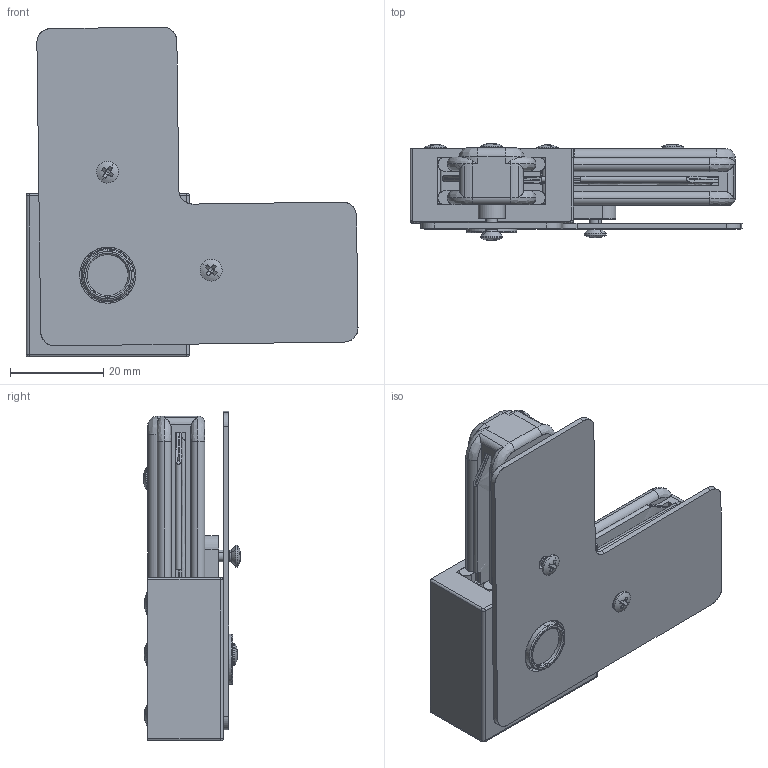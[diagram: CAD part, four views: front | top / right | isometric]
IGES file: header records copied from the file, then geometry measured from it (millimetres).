
Start section: SolidWorks IGES file using analytic representation for surfaces
Bounding box: 71.15 x 20.76 x 70.66 mm (x, y, z)
Surface area: 28671.5 mm2 (no closed solid volume)
Topology: 0 solids, 0 shells, 689 faces, 6652 edges, 6640 vertices
Faces by surface type: bspline 455, revolution 234
